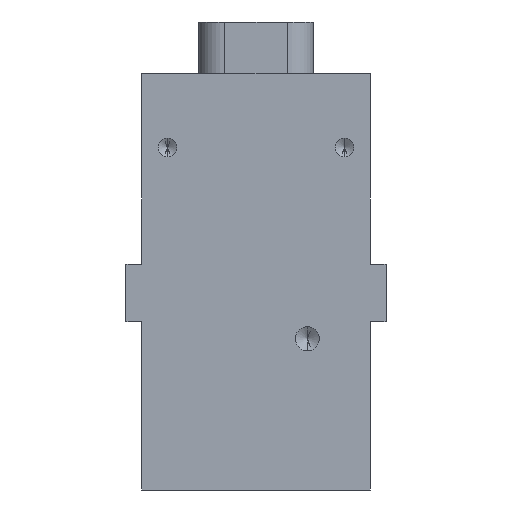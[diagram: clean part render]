
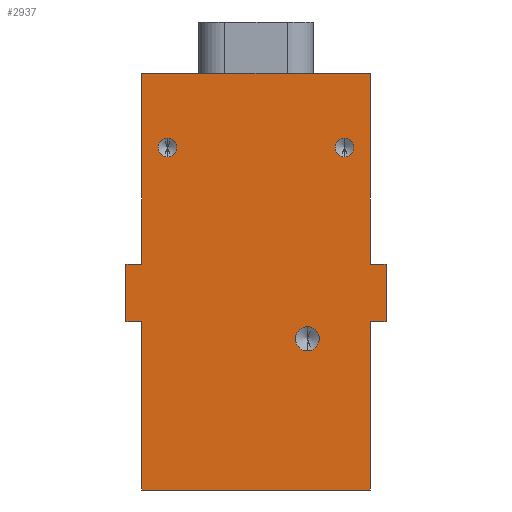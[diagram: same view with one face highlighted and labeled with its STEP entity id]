
A CAD part, left-side view. The second image highlights one B-rep face of the part: STEP entity #2937.
In plain terms, the highlighted planar face has unit normal (-1, 0, 0).
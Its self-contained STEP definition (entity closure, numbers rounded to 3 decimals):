
#22 = ORIENTED_EDGE ( 'NONE', *, *, #1700, .F. ) ;
#34 = CARTESIAN_POINT ( 'NONE',  ( -22.57, -17.93, 20. ) ) ;
#45 = VERTEX_POINT ( 'NONE', #3188 ) ;
#61 = CARTESIAN_POINT ( 'NONE',  ( -22.57, 17.57, -0.46 ) ) ;
#104 = DIRECTION ( 'NONE',  ( -1., 0., 0. ) ) ;
#121 = EDGE_CURVE ( 'NONE', #1864, #5236, #4986, .T. ) ;
#129 = EDGE_LOOP ( 'NONE', ( #5572, #4653 ) ) ;
#236 = EDGE_CURVE ( 'NONE', #1744, #1573, #425, .T. ) ;
#281 = VECTOR ( 'NONE', #3007, 1000. ) ;
#282 = AXIS2_PLACEMENT_3D ( 'NONE', #5145, #1193, #3588 ) ;
#335 = CIRCLE ( 'NONE', #1139, 2.1 ) ;
#413 = CARTESIAN_POINT ( 'NONE',  ( -22.57, 20.37, -10.54 ) ) ;
#425 = LINE ( 'NONE', #3678, #4552 ) ;
#465 = CARTESIAN_POINT ( 'NONE',  ( -22.57, 13.07, 20. ) ) ;
#474 = CARTESIAN_POINT ( 'NONE',  ( -22.57, -25.23, -10.54 ) ) ;
#559 = ORIENTED_EDGE ( 'NONE', *, *, #6000, .F. ) ;
#603 = CARTESIAN_POINT ( 'NONE',  ( -22.57, 20.37, -0.46 ) ) ;
#606 = ORIENTED_EDGE ( 'NONE', *, *, #236, .F. ) ;
#651 = AXIS2_PLACEMENT_3D ( 'NONE', #34, #1952, #3406 ) ;
#673 = ORIENTED_EDGE ( 'NONE', *, *, #5906, .T. ) ;
#704 = LINE ( 'NONE', #2653, #2017 ) ;
#716 = VERTEX_POINT ( 'NONE', #4263 ) ;
#778 = DIRECTION ( 'NONE',  ( 0., 0., 1. ) ) ;
#790 = VERTEX_POINT ( 'NONE', #61 ) ;
#818 = CARTESIAN_POINT ( 'NONE',  ( -22.57, -22.43, 33. ) ) ;
#890 = AXIS2_PLACEMENT_3D ( 'NONE', #3405, #1004, #2932 ) ;
#1004 = DIRECTION ( 'NONE',  ( -1., 0., 0. ) ) ;
#1039 = VECTOR ( 'NONE', #4203, 1000. ) ;
#1062 = CIRCLE ( 'NONE', #651, 1.65 ) ;
#1087 = CARTESIAN_POINT ( 'NONE',  ( -22.57, 13.07, 21.65 ) ) ;
#1139 = AXIS2_PLACEMENT_3D ( 'NONE', #1940, #3873, #5798 ) ;
#1146 = AXIS2_PLACEMENT_3D ( 'NONE', #3604, #2988, #3572 ) ;
#1193 = DIRECTION ( 'NONE',  ( 1., 0., 0. ) ) ;
#1283 = VERTEX_POINT ( 'NONE', #474 ) ;
#1326 = LINE ( 'NONE', #1829, #4869 ) ;
#1338 = CARTESIAN_POINT ( 'NONE',  ( -22.57, -25.23, -10.54 ) ) ;
#1455 = ORIENTED_EDGE ( 'NONE', *, *, #3656, .T. ) ;
#1524 = ORIENTED_EDGE ( 'NONE', *, *, #4506, .F. ) ;
#1573 = VERTEX_POINT ( 'NONE', #1859 ) ;
#1587 = CARTESIAN_POINT ( 'NONE',  ( -22.57, -11.43, -15.6 ) ) ;
#1646 = DIRECTION ( 'NONE',  ( 0., 0., 1. ) ) ;
#1662 = FACE_OUTER_BOUND ( 'NONE', #5803, .T. ) ;
#1700 = EDGE_CURVE ( 'NONE', #1283, #4347, #3841, .T. ) ;
#1703 = EDGE_CURVE ( 'NONE', #5236, #1864, #335, .T. ) ;
#1734 = VECTOR ( 'NONE', #1926, 1000. ) ;
#1744 = VERTEX_POINT ( 'NONE', #5000 ) ;
#1784 = CARTESIAN_POINT ( 'NONE',  ( -22.57, -11.43, -11.4 ) ) ;
#1829 = CARTESIAN_POINT ( 'NONE',  ( -22.57, -22.43, 33. ) ) ;
#1834 = CARTESIAN_POINT ( 'NONE',  ( -22.57, 20.37, -10.54 ) ) ;
#1840 = AXIS2_PLACEMENT_3D ( 'NONE', #4059, #4121, #778 ) ;
#1859 = CARTESIAN_POINT ( 'NONE',  ( -22.57, -22.43, -0.46 ) ) ;
#1864 = VERTEX_POINT ( 'NONE', #1784 ) ;
#1888 = EDGE_CURVE ( 'NONE', #2718, #2253, #5563, .T. ) ;
#1889 = ORIENTED_EDGE ( 'NONE', *, *, #5540, .F. ) ;
#1926 = DIRECTION ( 'NONE',  ( 0., -1., 0. ) ) ;
#1940 = CARTESIAN_POINT ( 'NONE',  ( -22.57, -11.43, -13.5 ) ) ;
#1952 = DIRECTION ( 'NONE',  ( -1., 0., 0. ) ) ;
#2017 = VECTOR ( 'NONE', #1646, 1000. ) ;
#2048 = LINE ( 'NONE', #3985, #2888 ) ;
#2106 = VERTEX_POINT ( 'NONE', #1834 ) ;
#2139 = VECTOR ( 'NONE', #6090, 1000. ) ;
#2164 = DIRECTION ( 'NONE',  ( 0., 0., -1. ) ) ;
#2243 = VECTOR ( 'NONE', #5325, 1000. ) ;
#2253 = VERTEX_POINT ( 'NONE', #4694 ) ;
#2275 = VECTOR ( 'NONE', #2735, 1000. ) ;
#2354 = ORIENTED_EDGE ( 'NONE', *, *, #2401, .T. ) ;
#2401 = EDGE_CURVE ( 'NONE', #5702, #1573, #2499, .T. ) ;
#2499 = LINE ( 'NONE', #4457, #281 ) ;
#2653 = CARTESIAN_POINT ( 'NONE',  ( -22.57, 20.37, -10.54 ) ) ;
#2671 = LINE ( 'NONE', #6075, #4565 ) ;
#2718 = VERTEX_POINT ( 'NONE', #4803 ) ;
#2735 = DIRECTION ( 'NONE',  ( 0., -1., 0. ) ) ;
#2740 = EDGE_CURVE ( 'NONE', #716, #4445, #5225, .T. ) ;
#2767 = PLANE ( 'NONE',  #282 ) ;
#2865 = ORIENTED_EDGE ( 'NONE', *, *, #2740, .F. ) ;
#2888 = VECTOR ( 'NONE', #5903, 1000. ) ;
#2932 = DIRECTION ( 'NONE',  ( 0., 0., 1. ) ) ;
#2937 = ADVANCED_FACE ( 'NONE', ( #5983, #4126, #3146, #1662 ), #2767, .F. ) ;
#2940 = LINE ( 'NONE', #4863, #1734 ) ;
#2988 = DIRECTION ( 'NONE',  ( -1., 0., 0. ) ) ;
#3007 = DIRECTION ( 'NONE',  ( 0., 1., 0. ) ) ;
#3027 = CIRCLE ( 'NONE', #4644, 1.65 ) ;
#3146 = FACE_BOUND ( 'NONE', #129, .T. ) ;
#3188 = CARTESIAN_POINT ( 'NONE',  ( -22.57, 17.57, 33. ) ) ;
#3274 = DIRECTION ( 'NONE',  ( 0., 0., -1. ) ) ;
#3347 = EDGE_LOOP ( 'NONE', ( #6129, #3885 ) ) ;
#3389 = EDGE_CURVE ( 'NONE', #5090, #5940, #5687, .T. ) ;
#3405 = CARTESIAN_POINT ( 'NONE',  ( -22.57, 13.07, 20. ) ) ;
#3406 = DIRECTION ( 'NONE',  ( 0., 0., 1. ) ) ;
#3485 = EDGE_CURVE ( 'NONE', #1283, #5702, #6152, .T. ) ;
#3486 = CARTESIAN_POINT ( 'NONE',  ( -22.57, -17.93, 21.65 ) ) ;
#3503 = ORIENTED_EDGE ( 'NONE', *, *, #3485, .T. ) ;
#3507 = ORIENTED_EDGE ( 'NONE', *, *, #5833, .T. ) ;
#3545 = EDGE_LOOP ( 'NONE', ( #5481, #2865 ) ) ;
#3555 = VERTEX_POINT ( 'NONE', #603 ) ;
#3572 = DIRECTION ( 'NONE',  ( 0., 0., 1. ) ) ;
#3588 = DIRECTION ( 'NONE',  ( 0., 0., -1. ) ) ;
#3604 = CARTESIAN_POINT ( 'NONE',  ( -22.57, -17.93, 20. ) ) ;
#3656 = EDGE_CURVE ( 'NONE', #5635, #2718, #2048, .T. ) ;
#3678 = CARTESIAN_POINT ( 'NONE',  ( -22.57, -22.43, 33. ) ) ;
#3841 = LINE ( 'NONE', #5296, #2243 ) ;
#3873 = DIRECTION ( 'NONE',  ( -1., 0., 0. ) ) ;
#3885 = ORIENTED_EDGE ( 'NONE', *, *, #1703, .F. ) ;
#3985 = CARTESIAN_POINT ( 'NONE',  ( -22.57, 17.57, 33. ) ) ;
#4037 = ORIENTED_EDGE ( 'NONE', *, *, #4122, .F. ) ;
#4059 = CARTESIAN_POINT ( 'NONE',  ( -22.57, -11.43, -13.5 ) ) ;
#4072 = CARTESIAN_POINT ( 'NONE',  ( -22.57, -25.23, -0.46 ) ) ;
#4121 = DIRECTION ( 'NONE',  ( -1., 0., 0. ) ) ;
#4122 = EDGE_CURVE ( 'NONE', #45, #1744, #4702, .T. ) ;
#4126 = FACE_BOUND ( 'NONE', #3545, .T. ) ;
#4203 = DIRECTION ( 'NONE',  ( 0., -1., 0. ) ) ;
#4263 = CARTESIAN_POINT ( 'NONE',  ( -22.57, 13.07, 18.35 ) ) ;
#4347 = VERTEX_POINT ( 'NONE', #5384 ) ;
#4397 = EDGE_CURVE ( 'NONE', #4445, #716, #3027, .T. ) ;
#4445 = VERTEX_POINT ( 'NONE', #1087 ) ;
#4457 = CARTESIAN_POINT ( 'NONE',  ( -22.57, -25.23, -0.46 ) ) ;
#4506 = EDGE_CURVE ( 'NONE', #2106, #3555, #704, .T. ) ;
#4552 = VECTOR ( 'NONE', #6162, 1000. ) ;
#4565 = VECTOR ( 'NONE', #3274, 1000. ) ;
#4644 = AXIS2_PLACEMENT_3D ( 'NONE', #465, #104, #5823 ) ;
#4653 = ORIENTED_EDGE ( 'NONE', *, *, #6082, .F. ) ;
#4690 = CARTESIAN_POINT ( 'NONE',  ( -22.57, -22.43, -40. ) ) ;
#4693 = ORIENTED_EDGE ( 'NONE', *, *, #1888, .T. ) ;
#4694 = CARTESIAN_POINT ( 'NONE',  ( -22.57, -22.43, -40. ) ) ;
#4702 = LINE ( 'NONE', #818, #2275 ) ;
#4803 = CARTESIAN_POINT ( 'NONE',  ( -22.57, 17.57, -40. ) ) ;
#4863 = CARTESIAN_POINT ( 'NONE',  ( -22.57, 20.37, -0.46 ) ) ;
#4869 = VECTOR ( 'NONE', #2164, 1000. ) ;
#4897 = CARTESIAN_POINT ( 'NONE',  ( -22.57, 17.57, -10.54 ) ) ;
#4986 = CIRCLE ( 'NONE', #1840, 2.1 ) ;
#5000 = CARTESIAN_POINT ( 'NONE',  ( -22.57, -22.43, 33. ) ) ;
#5090 = VERTEX_POINT ( 'NONE', #3486 ) ;
#5145 = CARTESIAN_POINT ( 'NONE',  ( -22.57, -22.43, 33. ) ) ;
#5155 = LINE ( 'NONE', #413, #1039 ) ;
#5225 = CIRCLE ( 'NONE', #890, 1.65 ) ;
#5236 = VERTEX_POINT ( 'NONE', #1587 ) ;
#5296 = CARTESIAN_POINT ( 'NONE',  ( -22.57, -25.23, -10.54 ) ) ;
#5325 = DIRECTION ( 'NONE',  ( 0., 1., 0. ) ) ;
#5327 = VECTOR ( 'NONE', #5694, 1000. ) ;
#5384 = CARTESIAN_POINT ( 'NONE',  ( -22.57, -22.43, -10.54 ) ) ;
#5481 = ORIENTED_EDGE ( 'NONE', *, *, #4397, .F. ) ;
#5540 = EDGE_CURVE ( 'NONE', #3555, #790, #2940, .T. ) ;
#5563 = LINE ( 'NONE', #4690, #5327 ) ;
#5572 = ORIENTED_EDGE ( 'NONE', *, *, #3389, .F. ) ;
#5635 = VERTEX_POINT ( 'NONE', #4897 ) ;
#5646 = CARTESIAN_POINT ( 'NONE',  ( -22.57, -17.93, 18.35 ) ) ;
#5687 = CIRCLE ( 'NONE', #1146, 1.65 ) ;
#5694 = DIRECTION ( 'NONE',  ( 0., -1., 0. ) ) ;
#5702 = VERTEX_POINT ( 'NONE', #4072 ) ;
#5798 = DIRECTION ( 'NONE',  ( 0., 0., 1. ) ) ;
#5803 = EDGE_LOOP ( 'NONE', ( #4693, #559, #22, #3503, #2354, #606, #4037, #673, #1889, #1524, #3507, #1455 ) ) ;
#5823 = DIRECTION ( 'NONE',  ( 0., 0., 1. ) ) ;
#5833 = EDGE_CURVE ( 'NONE', #2106, #5635, #5155, .T. ) ;
#5903 = DIRECTION ( 'NONE',  ( 0., 0., -1. ) ) ;
#5906 = EDGE_CURVE ( 'NONE', #45, #790, #2671, .T. ) ;
#5940 = VERTEX_POINT ( 'NONE', #5646 ) ;
#5983 = FACE_BOUND ( 'NONE', #3347, .T. ) ;
#6000 = EDGE_CURVE ( 'NONE', #4347, #2253, #1326, .T. ) ;
#6075 = CARTESIAN_POINT ( 'NONE',  ( -22.57, 17.57, 33. ) ) ;
#6082 = EDGE_CURVE ( 'NONE', #5940, #5090, #1062, .T. ) ;
#6090 = DIRECTION ( 'NONE',  ( 0., 0., 1. ) ) ;
#6129 = ORIENTED_EDGE ( 'NONE', *, *, #121, .F. ) ;
#6152 = LINE ( 'NONE', #1338, #2139 ) ;
#6162 = DIRECTION ( 'NONE',  ( 0., 0., -1. ) ) ;
